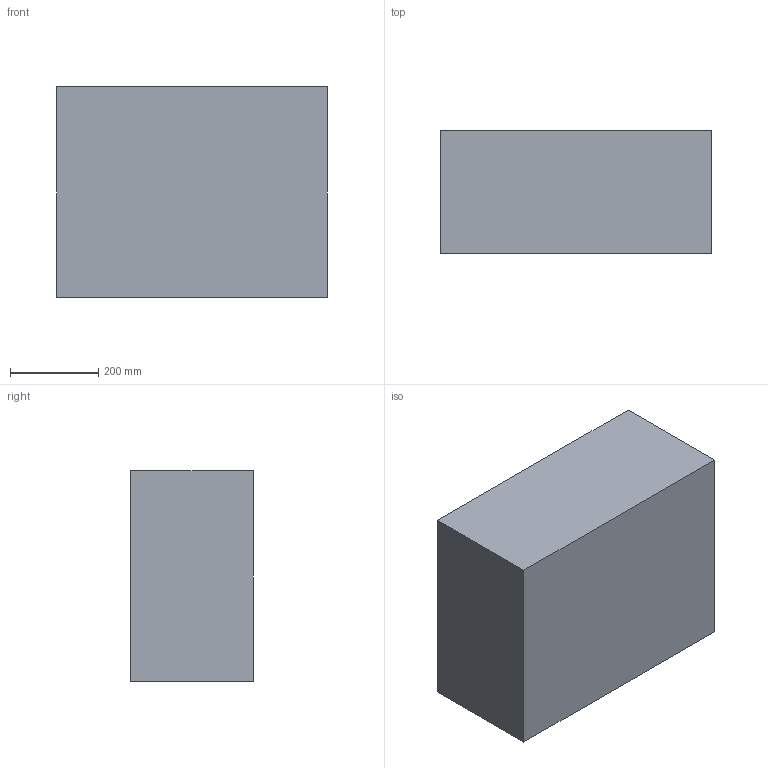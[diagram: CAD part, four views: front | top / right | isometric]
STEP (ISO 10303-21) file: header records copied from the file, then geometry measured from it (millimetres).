
FILE_DESCRIPTION (( 'STEP AP214' ), '1' );
FILE_NAME ('1607 Bottom Tub.STEP', '2019-02-13T21:49:51', ( '' ), ( '' ), 'SwSTEP 2.0', 'SolidWorks 2016', '' );
FILE_SCHEMA (( 'AUTOMOTIVE_DESIGN' ));
Length unit declared in the file: inch
Products named in the file (1): 1607 Bottom Tub
Bounding box: 611.32 x 277.24 x 476.1 mm (x, y, z)
Volume: 24923112 mm3; surface area: 1661960.7 mm2
Topology: 1 solids, 1 shells, 581 faces, 1433 edges, 871 vertices
Faces by surface type: bspline 198, cylinder 181, plane 102, torus 66, sphere 34
Entity records: 31946 total; most frequent: CARTESIAN_POINT 19927, ORIENTED_EDGE 2854, DIRECTION 2088, EDGE_CURVE 1427, VERTEX_POINT 871, AXIS2_PLACEMENT_3D 810, EDGE_LOOP 604, FACE_OUTER_BOUND 581
